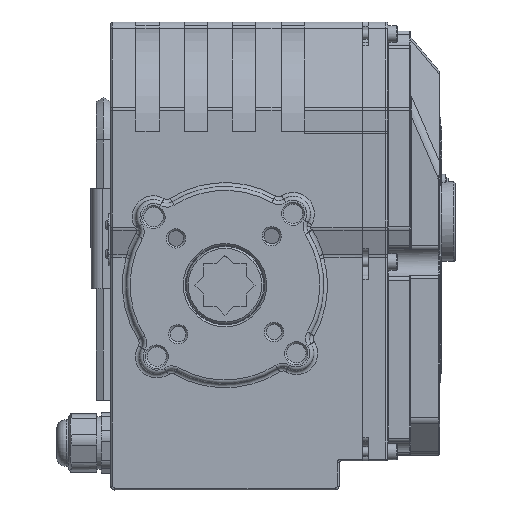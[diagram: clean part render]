
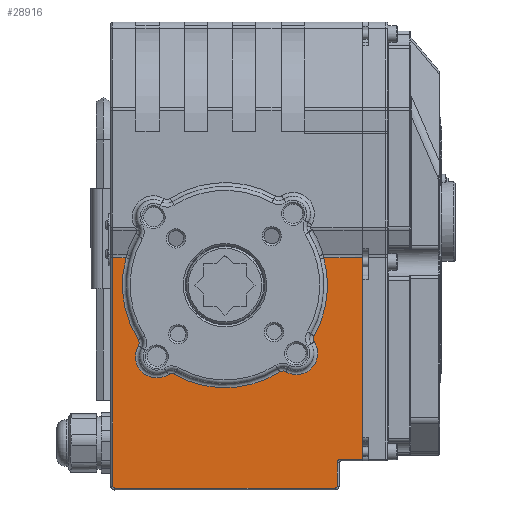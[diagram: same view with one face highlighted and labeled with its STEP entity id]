
A CAD part, front view. The second image highlights one B-rep face of the part: STEP entity #28916.
In plain terms, the highlighted planar face has unit normal (0, -1, 0).
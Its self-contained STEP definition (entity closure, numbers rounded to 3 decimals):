
#1689=PLANE('',#31423);
#3084=FACE_OUTER_BOUND('',#4773,.T.);
#4773=EDGE_LOOP('',(#22270,#22271,#22272,#22273,#22274,#22275,#22276,#22277,
#22278,#22279,#22280,#22281,#22282,#22283,#22284,#22285,#22286,#22287,#22288));
#6335=LINE('',#44851,#8445);
#6349=LINE('',#45046,#8459);
#6351=LINE('',#45066,#8461);
#6353=LINE('',#45083,#8463);
#6435=LINE('',#45404,#8545);
#6706=LINE('',#47862,#8816);
#6707=LINE('',#47881,#8817);
#8445=VECTOR('',#34938,10.);
#8459=VECTOR('',#35030,10.);
#8461=VECTOR('',#35042,10.);
#8463=VECTOR('',#35052,10.);
#8545=VECTOR('',#35344,10.);
#8816=VECTOR('',#36757,10.);
#8817=VECTOR('',#36776,10.);
#10310=CIRCLE('',#30696,2.);
#10340=CIRCLE('',#30740,1.);
#10344=CIRCLE('',#30745,1.);
#10731=CIRCLE('',#31424,53.);
#10732=CIRCLE('',#31425,3.);
#10733=CIRCLE('',#31426,11.);
#10734=CIRCLE('',#31427,3.);
#10735=CIRCLE('',#31428,53.);
#10736=CIRCLE('',#31429,3.);
#10737=CIRCLE('',#31430,11.);
#10738=CIRCLE('',#31431,3.);
#10739=CIRCLE('',#31432,53.);
#12226=VERTEX_POINT('',#44842);
#12227=VERTEX_POINT('',#44844);
#12229=VERTEX_POINT('',#44849);
#12257=VERTEX_POINT('',#45038);
#12259=VERTEX_POINT('',#45044);
#12261=VERTEX_POINT('',#45058);
#12263=VERTEX_POINT('',#45064);
#12265=VERTEX_POINT('',#45078);
#12364=VERTEX_POINT('',#45402);
#12812=VERTEX_POINT('',#47861);
#12813=VERTEX_POINT('',#47863);
#12814=VERTEX_POINT('',#47865);
#12815=VERTEX_POINT('',#47867);
#12816=VERTEX_POINT('',#47869);
#12817=VERTEX_POINT('',#47871);
#12818=VERTEX_POINT('',#47873);
#12819=VERTEX_POINT('',#47875);
#12820=VERTEX_POINT('',#47877);
#12821=VERTEX_POINT('',#47879);
#15331=EDGE_CURVE('',#12226,#12227,#10310,.T.);
#15334=EDGE_CURVE('',#12229,#12226,#6335,.T.);
#15377=EDGE_CURVE('',#12259,#12257,#6349,.T.);
#15380=EDGE_CURVE('',#12261,#12259,#10340,.T.);
#15383=EDGE_CURVE('',#12263,#12261,#6351,.T.);
#15386=EDGE_CURVE('',#12265,#12263,#10344,.T.);
#15388=EDGE_CURVE('',#12227,#12265,#6353,.T.);
#15534=EDGE_CURVE('',#12364,#12229,#6435,.T.);
#16240=EDGE_CURVE('',#12812,#12364,#6706,.T.);
#16241=EDGE_CURVE('',#12813,#12812,#10731,.T.);
#16242=EDGE_CURVE('',#12814,#12813,#10732,.T.);
#16243=EDGE_CURVE('',#12815,#12814,#10733,.T.);
#16244=EDGE_CURVE('',#12816,#12815,#10734,.T.);
#16245=EDGE_CURVE('',#12817,#12816,#10735,.T.);
#16246=EDGE_CURVE('',#12818,#12817,#10736,.T.);
#16247=EDGE_CURVE('',#12819,#12818,#10737,.T.);
#16248=EDGE_CURVE('',#12820,#12819,#10738,.T.);
#16249=EDGE_CURVE('',#12821,#12820,#10739,.T.);
#16250=EDGE_CURVE('',#12257,#12821,#6707,.T.);
#22270=ORIENTED_EDGE('',*,*,#15334,.F.);
#22271=ORIENTED_EDGE('',*,*,#15534,.F.);
#22272=ORIENTED_EDGE('',*,*,#16240,.F.);
#22273=ORIENTED_EDGE('',*,*,#16241,.F.);
#22274=ORIENTED_EDGE('',*,*,#16242,.F.);
#22275=ORIENTED_EDGE('',*,*,#16243,.F.);
#22276=ORIENTED_EDGE('',*,*,#16244,.F.);
#22277=ORIENTED_EDGE('',*,*,#16245,.F.);
#22278=ORIENTED_EDGE('',*,*,#16246,.F.);
#22279=ORIENTED_EDGE('',*,*,#16247,.F.);
#22280=ORIENTED_EDGE('',*,*,#16248,.F.);
#22281=ORIENTED_EDGE('',*,*,#16249,.F.);
#22282=ORIENTED_EDGE('',*,*,#16250,.F.);
#22283=ORIENTED_EDGE('',*,*,#15377,.F.);
#22284=ORIENTED_EDGE('',*,*,#15380,.F.);
#22285=ORIENTED_EDGE('',*,*,#15383,.F.);
#22286=ORIENTED_EDGE('',*,*,#15386,.F.);
#22287=ORIENTED_EDGE('',*,*,#15388,.F.);
#22288=ORIENTED_EDGE('',*,*,#15331,.F.);
#28916=ADVANCED_FACE('',(#3084),#1689,.T.);
#30696=AXIS2_PLACEMENT_3D('',#44845,#34930,#34931);
#30740=AXIS2_PLACEMENT_3D('',#45060,#35034,#35035);
#30745=AXIS2_PLACEMENT_3D('',#45080,#35046,#35047);
#31423=AXIS2_PLACEMENT_3D('',#47860,#36755,#36756);
#31424=AXIS2_PLACEMENT_3D('',#47864,#36758,#36759);
#31425=AXIS2_PLACEMENT_3D('',#47866,#36760,#36761);
#31426=AXIS2_PLACEMENT_3D('',#47868,#36762,#36763);
#31427=AXIS2_PLACEMENT_3D('',#47870,#36764,#36765);
#31428=AXIS2_PLACEMENT_3D('',#47872,#36766,#36767);
#31429=AXIS2_PLACEMENT_3D('',#47874,#36768,#36769);
#31430=AXIS2_PLACEMENT_3D('',#47876,#36770,#36771);
#31431=AXIS2_PLACEMENT_3D('',#47878,#36772,#36773);
#31432=AXIS2_PLACEMENT_3D('',#47880,#36774,#36775);
#34930=DIRECTION('center_axis',(0.,-1.,0.));
#34931=DIRECTION('ref_axis',(-0.707,0.,0.707));
#34938=DIRECTION('',(-1.,0.,0.));
#35030=DIRECTION('',(0.,0.,1.));
#35034=DIRECTION('center_axis',(0.,1.,0.));
#35035=DIRECTION('ref_axis',(-0.707,0.,-0.707));
#35042=DIRECTION('',(-1.,0.,0.));
#35046=DIRECTION('center_axis',(0.,1.,0.));
#35047=DIRECTION('ref_axis',(0.707,0.,-0.707));
#35052=DIRECTION('',(0.,0.,-1.));
#35344=DIRECTION('',(0.,0.,-1.));
#36755=DIRECTION('center_axis',(0.,-1.,0.));
#36756=DIRECTION('ref_axis',(0.,0.,-1.));
#36757=DIRECTION('',(1.,0.,0.));
#36758=DIRECTION('center_axis',(0.,-1.,0.));
#36759=DIRECTION('ref_axis',(0.993,0.,-0.117));
#36760=DIRECTION('center_axis',(0.,1.,0.));
#36761=DIRECTION('ref_axis',(-1.,0.,-0.026));
#36762=DIRECTION('center_axis',(0.,-1.,0.));
#36763=DIRECTION('ref_axis',(0.724,0.,-0.69));
#36764=DIRECTION('center_axis',(0.,1.,0.));
#36765=DIRECTION('ref_axis',(-0.021,0.,1.));
#36766=DIRECTION('center_axis',(0.,-1.,0.));
#36767=DIRECTION('ref_axis',(0.024,0.,-1.));
#36768=DIRECTION('center_axis',(0.,1.,0.));
#36769=DIRECTION('ref_axis',(-0.026,0.,1.));
#36770=DIRECTION('center_axis',(0.,-1.,0.));
#36771=DIRECTION('ref_axis',(-0.69,0.,-0.724));
#36772=DIRECTION('center_axis',(0.,1.,0.));
#36773=DIRECTION('ref_axis',(1.,0.,0.021));
#36774=DIRECTION('center_axis',(0.,-1.,0.));
#36775=DIRECTION('ref_axis',(-0.99,0.,-0.14));
#36776=DIRECTION('',(1.,0.,0.));
#44842=CARTESIAN_POINT('',(60.,-50.,-89.827));
#44844=CARTESIAN_POINT('',(58.,-50.,-91.827));
#44845=CARTESIAN_POINT('Origin',(60.,-50.,-91.827));
#44849=CARTESIAN_POINT('',(71.,-50.,-89.827));
#44851=CARTESIAN_POINT('',(-9.,-50.,-89.827));
#45038=CARTESIAN_POINT('',(-58.,-50.,14.213));
#45044=CARTESIAN_POINT('',(-58.,-50.,-103.827));
#45046=CARTESIAN_POINT('',(-58.,-50.,15.073));
#45058=CARTESIAN_POINT('',(-57.,-50.,-104.827));
#45060=CARTESIAN_POINT('Origin',(-57.,-50.,-103.827));
#45064=CARTESIAN_POINT('',(57.,-50.,-104.827));
#45066=CARTESIAN_POINT('',(-59.,-50.,-104.827));
#45078=CARTESIAN_POINT('',(58.,-50.,-103.827));
#45080=CARTESIAN_POINT('Origin',(57.,-50.,-103.827));
#45083=CARTESIAN_POINT('',(58.,-50.,46.458));
#45402=CARTESIAN_POINT('',(71.,-50.,14.213));
#45404=CARTESIAN_POINT('',(71.,-50.,15.073));
#47860=CARTESIAN_POINT('Origin',(-59.,-50.,15.073));
#47861=CARTESIAN_POINT('',(51.059,-50.,14.213));
#47862=CARTESIAN_POINT('',(-59.,-50.,14.213));
#47863=CARTESIAN_POINT('',(46.087,-50.,-26.173));
#47864=CARTESIAN_POINT('Origin',(0.,-50.,0.));
#47865=CARTESIAN_POINT('',(46.169,-50.,-29.271));
#47866=CARTESIAN_POINT('Origin',(48.696,-50.,-27.654));
#47867=CARTESIAN_POINT('',(31.418,-50.,-44.735));
#47868=CARTESIAN_POINT('Origin',(36.904,-50.,-35.201));
#47869=CARTESIAN_POINT('',(28.319,-50.,-44.8));
#47870=CARTESIAN_POINT('Origin',(29.922,-50.,-47.336));
#47871=CARTESIAN_POINT('',(-26.173,-50.,-46.087));
#47872=CARTESIAN_POINT('Origin',(0.,-50.,0.));
#47873=CARTESIAN_POINT('',(-29.271,-50.,-46.169));
#47874=CARTESIAN_POINT('Origin',(-27.654,-50.,-48.696));
#47875=CARTESIAN_POINT('',(-44.735,-50.,-31.418));
#47876=CARTESIAN_POINT('Origin',(-35.201,-50.,-36.904));
#47877=CARTESIAN_POINT('',(-44.8,-50.,-28.319));
#47878=CARTESIAN_POINT('Origin',(-47.336,-50.,-29.922));
#47879=CARTESIAN_POINT('',(-51.059,-50.,14.213));
#47880=CARTESIAN_POINT('Origin',(0.,-50.,0.));
#47881=CARTESIAN_POINT('',(-59.,-50.,14.213));
